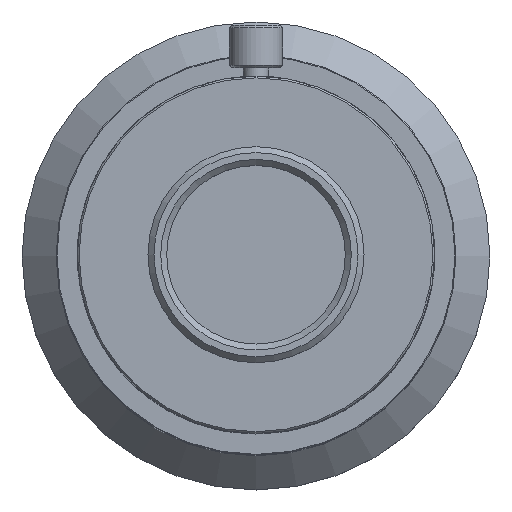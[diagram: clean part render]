
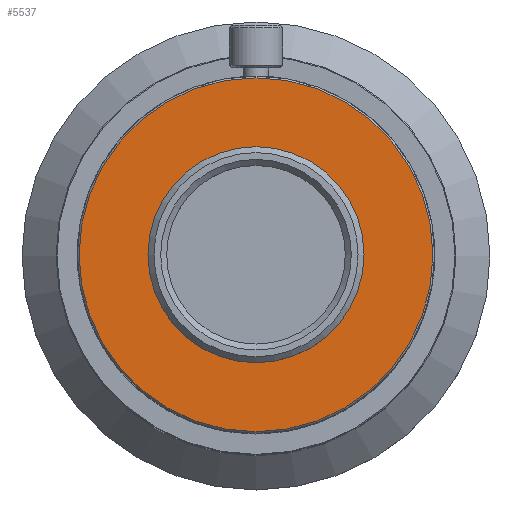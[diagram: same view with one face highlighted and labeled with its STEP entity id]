
A CAD part, top view. The second image highlights one B-rep face of the part: STEP entity #5537.
In plain terms, the highlighted planar face has unit normal (0, 0, 1).
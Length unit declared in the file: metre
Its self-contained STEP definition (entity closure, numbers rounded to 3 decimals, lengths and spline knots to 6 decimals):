
#5537=ADVANCED_FACE('41:58275',(#14417,#14418),#14419,.T.);
#10809=EDGE_CURVE('0:11547',#21783,#21783,#21784,.T.);
#10817=EDGE_CURVE('0:11565',#21795,#21795,#21796,.T.);
#14417=FACE_BOUND('',#25641,.T.);
#14418=FACE_OUTER_BOUND('',#25642,.T.);
#14419=PLANE('',#25643);
#21783=VERTEX_POINT('',#42189);
#21784=CIRCLE('',#42190,0.0208);
#21795=VERTEX_POINT('',#42205);
#21796=CIRCLE('',#42206,0.0121);
#25641=EDGE_LOOP('',(#50737));
#25642=EDGE_LOOP('',(#50738));
#25643=AXIS2_PLACEMENT_3D('',#50739,#50740,#50741);
#42189=CARTESIAN_POINT('',(0.0,-0.0208,0.221));
#42190=AXIS2_PLACEMENT_3D('',#56915,#56916,#56917);
#42205=CARTESIAN_POINT('',(0.0121,0.,0.221));
#42206=AXIS2_PLACEMENT_3D('',#56927,#56928,#56929);
#50737=ORIENTED_EDGE('',*,*,#10817,.T.);
#50738=ORIENTED_EDGE('',*,*,#10809,.F.);
#50739=CARTESIAN_POINT('',(0.0,0.,0.221));
#50740=DIRECTION('',(0.0,0.,1.0));
#50741=DIRECTION('',(0.0,-1.0,0.));
#56915=CARTESIAN_POINT('',(0.0,0.,0.221));
#56916=DIRECTION('',(-0.0,0.,-1.0));
#56917=DIRECTION('',(0.0,-1.0,0.));
#56927=CARTESIAN_POINT('',(0.0,0.,0.221));
#56928=DIRECTION('',(0.0,0.,-1.0));
#56929=DIRECTION('',(1.0,0.0,0.0));
